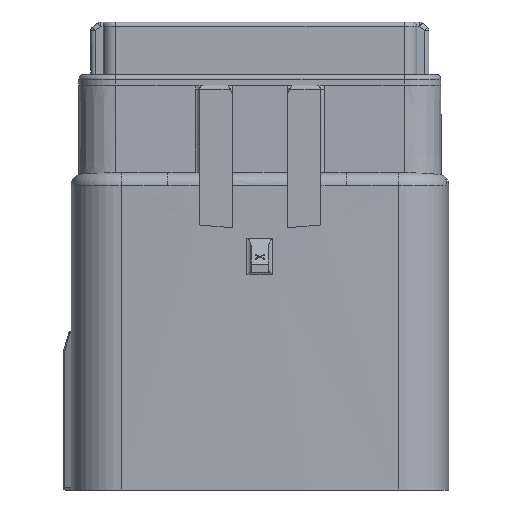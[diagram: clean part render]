
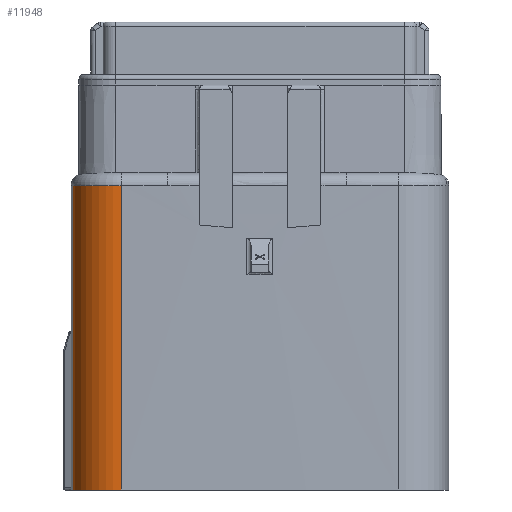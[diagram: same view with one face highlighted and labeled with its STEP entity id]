
A CAD part, front view. The second image highlights one B-rep face of the part: STEP entity #11948.
In plain terms, the highlighted cylindrical face has radius 5.72 mm (diameter 11.441 mm), a partial arc.
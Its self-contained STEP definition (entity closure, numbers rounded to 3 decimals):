
#194=CARTESIAN_POINT('',(-15.818,-3.051,-19.25));
#195=DIRECTION('',(0.,0.,-1.));
#196=DIRECTION('',(-0.025,-1.,0.));
#197=AXIS2_PLACEMENT_3D('',#194,#195,#196);
#1768=DIRECTION('',(0.,0.,1.));
#1769=VECTOR('',#1768,35.);
#1770=CARTESIAN_POINT('',(-21.499,-3.722,-19.25));
#1771=LINE('',#1770,#1769);
#1776=DIRECTION('',(0.,0.,1.));
#1777=VECTOR('',#1776,35.);
#1778=CARTESIAN_POINT('',(-15.96,-8.77,-19.25));
#1779=LINE('',#1778,#1777);
#3942=CARTESIAN_POINT('',(-15.818,-3.051,15.75));
#3943=DIRECTION('',(0.,0.,1.));
#3944=DIRECTION('',(-0.993,-0.117,0.));
#3945=AXIS2_PLACEMENT_3D('',#3942,#3943,#3944);
#7584=CARTESIAN_POINT('',(-15.96,-8.77,-19.25));
#7585=VERTEX_POINT('',#7584);
#7586=CARTESIAN_POINT('',(-15.96,-8.77,15.75));
#7587=VERTEX_POINT('',#7586);
#7634=CARTESIAN_POINT('',(-21.499,-3.722,-19.25));
#7635=VERTEX_POINT('',#7634);
#7636=CARTESIAN_POINT('',(-21.499,-3.722,15.75));
#7637=VERTEX_POINT('',#7636);
#11935=CARTESIAN_POINT('',(-15.818,-3.051,-4.2));
#11936=DIRECTION('',(0.,0.,1.));
#11937=DIRECTION('',(1.,0.,0.));
#11938=AXIS2_PLACEMENT_3D('',#11935,#11936,#11937);
#11939=CYLINDRICAL_SURFACE('',#11938,5.72);
#11941=ORIENTED_EDGE('',*,*,#11940,.F.);
#11942=ORIENTED_EDGE('',*,*,#9565,.T.);
#11943=ORIENTED_EDGE('',*,*,#11926,.T.);
#11945=ORIENTED_EDGE('',*,*,#11944,.T.);
#11946=EDGE_LOOP('',(#11941,#11942,#11943,#11945));
#11947=FACE_OUTER_BOUND('',#11946,.F.);
#11948=ADVANCED_FACE('',(#11947),#11939,.T.);
#198=CIRCLE('',#197,5.72);
#3946=CIRCLE('',#3945,5.72);
#9565=EDGE_CURVE('',#7585,#7635,#198,.T.);
#11926=EDGE_CURVE('',#7635,#7637,#1771,.T.);
#11940=EDGE_CURVE('',#7585,#7587,#1779,.T.);
#11944=EDGE_CURVE('',#7637,#7587,#3946,.T.);
